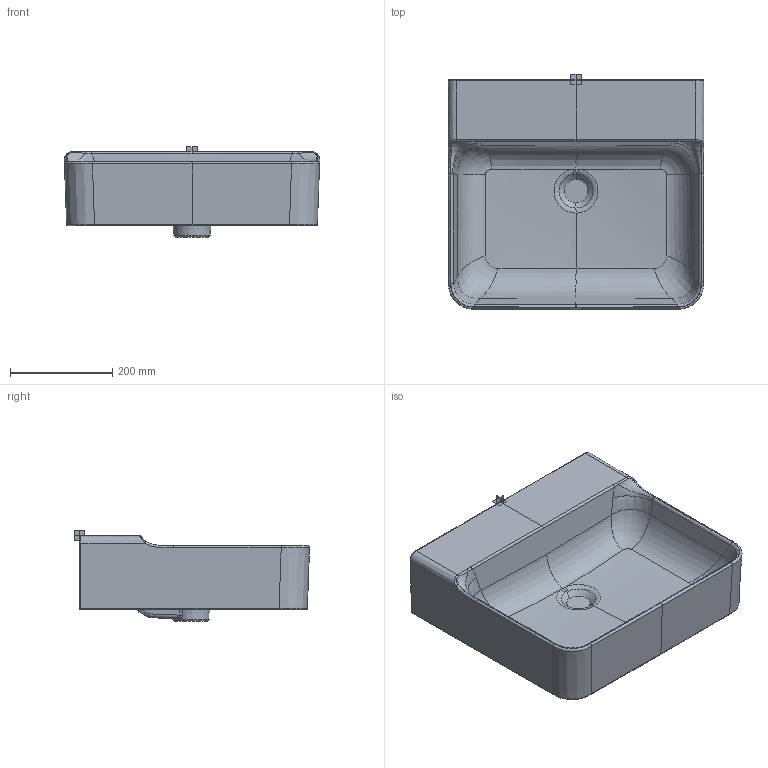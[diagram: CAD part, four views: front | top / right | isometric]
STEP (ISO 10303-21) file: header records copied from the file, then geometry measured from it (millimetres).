
FILE_DESCRIPTION((''),'2;1');
FILE_NAME('T3690_MK1_3DPL','2019-06-19T',('RibentsovV'),('AMERICAN STANDARD B&K'),'CREO PARAMETRIC BY PTC INC, 2016130','CREO PARAMETRIC BY PTC INC, 2016130','');
FILE_SCHEMA(('CONFIG_CONTROL_DESIGN'));
Length unit declared in the file: millimetre
Products named in the file (1): T3690_MK1_3DPL
Bounding box: 500 x 460.07 x 178 mm (x, y, z)
Volume: 16808748.4 mm3; surface area: 776128.5 mm2
Topology: 1 solids, 4 shells, 110 faces, 260 edges, 156 vertices
Faces by surface type: bspline 82, plane 13, cylinder 8, cone 3, torus 2, extrusion 2
Entity records: 19442 total; most frequent: CARTESIAN_POINT 17473, ORIENTED_EDGE 508, EDGE_CURVE 260, DIRECTION 206, B_SPLINE_CURVE_WITH_KNOTS 166, VERTEX_POINT 156, EDGE_LOOP 111, FACE_OUTER_BOUND 110
